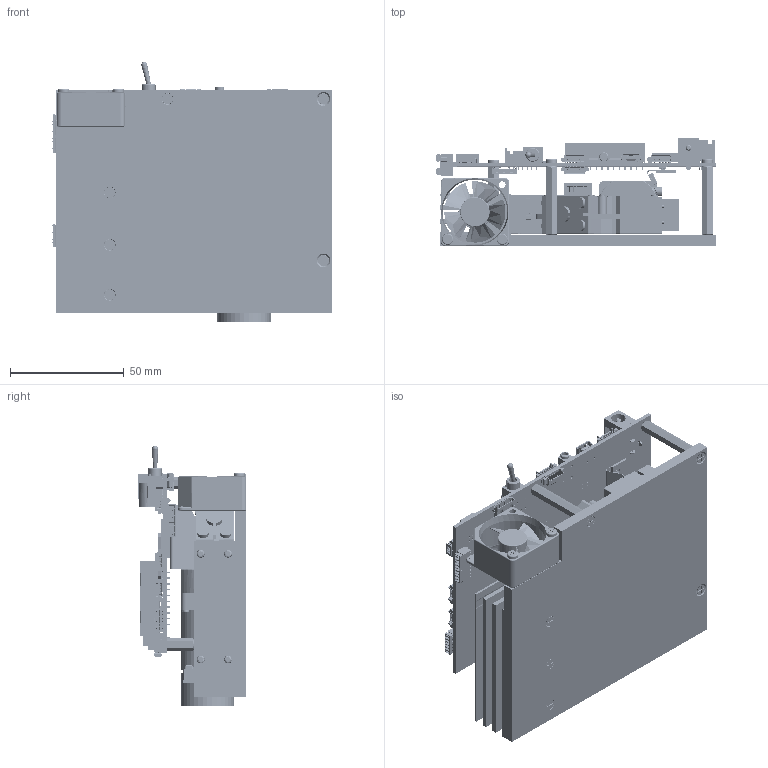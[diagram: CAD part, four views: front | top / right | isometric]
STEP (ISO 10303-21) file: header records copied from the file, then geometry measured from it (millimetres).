
FILE_DESCRIPTION((''),'2;1');
FILE_NAME('ASM0002_ASM','2013-10-08T',('Administrator'),(''),'PRO/ENGINEER BY PARAMETRIC TECHNOLOGY CORPORATION, 2009440','PRO/ENGINEER BY PARAMETRIC TECHNOLOGY CORPORATION, 2009440','');
FILE_SCHEMA(('CONFIG_CONTROL_DESIGN'));
Products named in the file (17): BOTTOM1; BOTTOM2; POLE; POLE_A; FAN30; LUODING; IPD1231G_R01; LUODING_B; 874390601; 874390900; PRT0001; BRDASSEM_SW0001; LUODING_A; LUODING_M; FLEX_CABLE_SW0001; FAN_SOCK; ASM0002_ASM
Assembly tree (34 placements, depth 2):
  ASM0002_ASM
    BOTTOM1
    BOTTOM2
    POLE  x3
    POLE_A
    FAN30
    LUODING  x6
    IPD1231G_R01
    LUODING_B  x2
    874390601  x4
    874390900  x2
    PRT0001
    BRDASSEM_SW0001
    LUODING_A  x4
    LUODING_M  x4
    FLEX_CABLE_SW0001
    FAN_SOCK
Bounding box: 123.25 x 47.67 x 114.49 mm (x, y, z)
Volume: 195991.7 mm3; surface area: 120436.3 mm2
Topology: 76 solids, 78 shells, 16057 faces, 44031 edges, 28570 vertices
Faces by surface type: plane 12235, cylinder 3177, bspline 277, torus 219, cone 110, sphere 29, revolution 10
Entity records: 461610 total; most frequent: CARTESIAN_POINT 117447, ORIENTED_EDGE 73822, DIRECTION 66809, EDGE_CURVE 36911, VECTOR 30359, LINE 30359, VERTEX_POINT 24054, AXIS2_PLACEMENT_3D 18223
